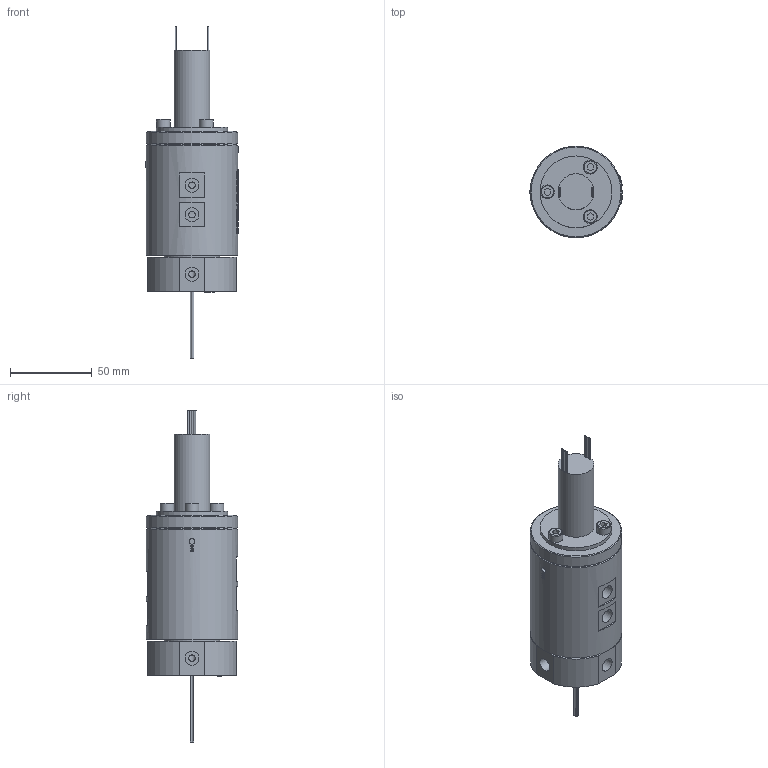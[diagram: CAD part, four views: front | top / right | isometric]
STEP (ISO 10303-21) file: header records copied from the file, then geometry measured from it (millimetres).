
FILE_DESCRIPTION(/* description */ (''),/* implementation_level */ '2;1');
FILE_NAME(/* name */ 'HQ0401-36M.stp',/* time_stamp */ '2025-02-14T11:54:36+08:00',/* author */ (''),/* organization */ (''),/* preprocessor_version */ 'ST-DEVELOPER v16.7',/* originating_system */ 'SIEMENS PLM Software NX 12.0',/* authorisation */ '');
FILE_SCHEMA (('AUTOMOTIVE_DESIGN { 1 0 10303 214 3 1 1 1 }'));
Length unit declared in the file: millimetre
Products named in the file (1): HX0540E8A2D8nghk
Bounding box: 57 x 56 x 203.3 mm (x, y, z)
Volume: 250986.2 mm3; surface area: 39304.2 mm2
Topology: 1 solids, 4 shells, 1001 faces, 2629 edges, 1762 vertices
Faces by surface type: plane 480, extrusion 391, cylinder 90, bspline 30, cone 7, torus 3
Full cylindrical faces by diameter (mm): 0.8 x16, 3.4 x6, 4 x12, 4.1 x4, 4.2 x4, 5 x3, 5.5 x3, 7.8 x1, 8 x1, 8.5 x11, 22 x1, 34 x1, 44 x1, 56 x2
Entity records: 36508 total; most frequent: CARTESIAN_POINT 15219, ORIENTED_EDGE 4996, DIRECTION 2806, EDGE_CURVE 2498, B_SPLINE_CURVE_WITH_KNOTS 1945, VERTEX_POINT 1719, EDGE_LOOP 1211, VECTOR 1020
